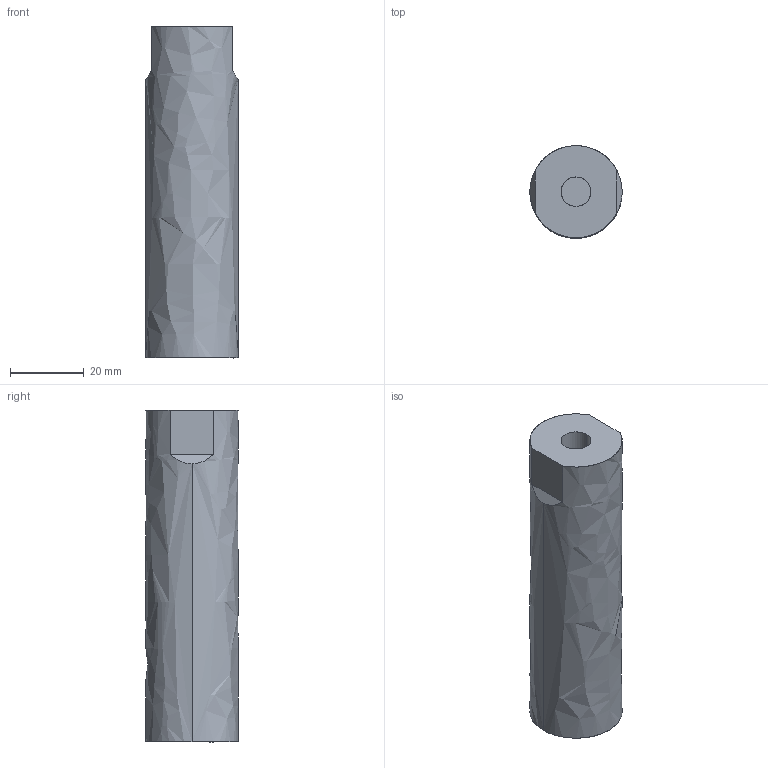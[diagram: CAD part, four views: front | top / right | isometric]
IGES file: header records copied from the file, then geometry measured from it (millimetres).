
Global section: file name: E:\UnigraphicsGraphicData\MISUMI_PRESS-PARTS\IGES\3d_sbvm25-90-r_00161_r00.igs; native system: NX V5.0; preprocessor: UGS NX IGES V5.0; author: MISUMI; date: 20110105.162512; units: millimetre
Bounding box: 25 x 25 x 90 mm (x, y, z)
Surface area: 8426.6 mm2 (no closed solid volume)
Topology: 0 solids, 0 shells, 11 faces, 72 edges, 72 vertices
Faces by surface type: bspline 11
